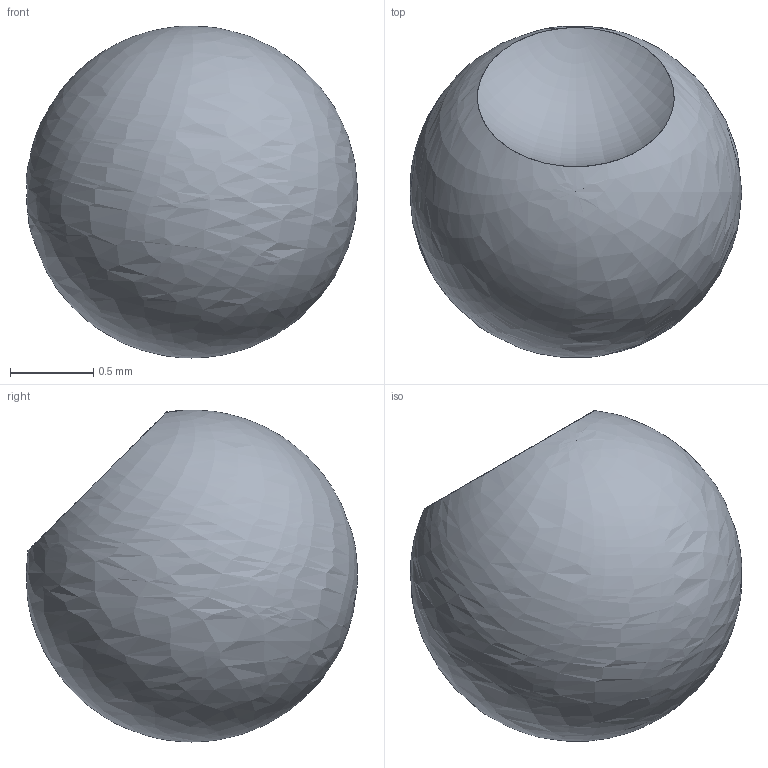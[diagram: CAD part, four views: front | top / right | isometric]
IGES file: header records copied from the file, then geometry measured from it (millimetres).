
Global section: file name: Filename.iges; native system: Open CASCADE 6.9; preprocessor: Open CASCADE IGES processor 6.9; date: 20171127.172330; units: millimetre
Bounding box: 2 x 2 x 2 mm (x, y, z)
Surface area: 12.6 mm2 (no closed solid volume)
Topology: 0 solids, 0 shells, 2 faces, 6 edges, 4 vertices
Faces by surface type: revolution 2
